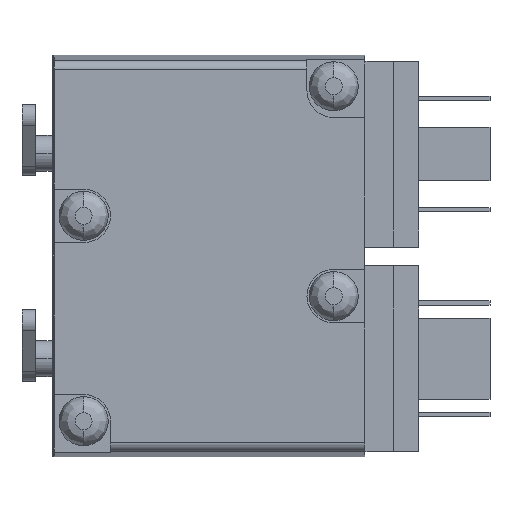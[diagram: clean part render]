
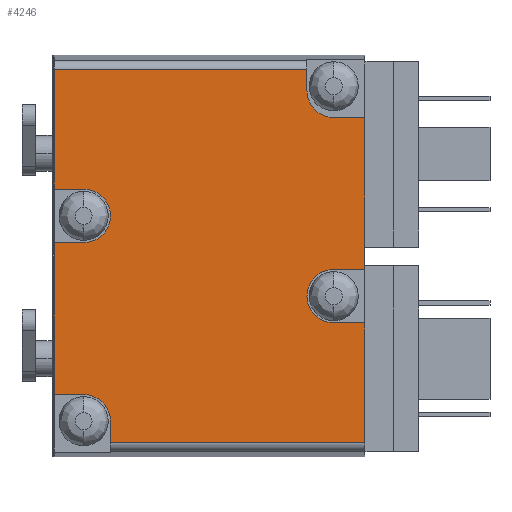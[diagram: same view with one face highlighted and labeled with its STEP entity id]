
A CAD part, left-side view. The second image highlights one B-rep face of the part: STEP entity #4246.
In plain terms, the highlighted planar face has unit normal (-1, 0, 0).
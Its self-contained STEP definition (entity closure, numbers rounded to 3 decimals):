
#16 = DIRECTION ( 'NONE',  ( 0., -1., 0. ) ) ;
#42 = DIRECTION ( 'NONE',  ( 1., 0., 0. ) ) ;
#91 = ORIENTED_EDGE ( 'NONE', *, *, #2800, .F. ) ;
#96 = DIRECTION ( 'NONE',  ( 1., 0., 0. ) ) ;
#137 = CARTESIAN_POINT ( 'NONE',  ( -76.95, 21., -39. ) ) ;
#194 = CARTESIAN_POINT ( 'NONE',  ( -76.95, 14.5, -42. ) ) ;
#261 = CARTESIAN_POINT ( 'NONE',  ( -76.95, 21., -36.642 ) ) ;
#375 = AXIS2_PLACEMENT_3D ( 'NONE', #3366, #5739, #4315 ) ;
#380 = VERTEX_POINT ( 'NONE', #4499 ) ;
#409 = ORIENTED_EDGE ( 'NONE', *, *, #4963, .T. ) ;
#428 = DIRECTION ( 'NONE',  ( 0., 0., 1. ) ) ;
#448 = CARTESIAN_POINT ( 'NONE',  ( -76.95, 49.3, -36.642 ) ) ;
#500 = ORIENTED_EDGE ( 'NONE', *, *, #3725, .T. ) ;
#604 = LINE ( 'NONE', #3001, #4488 ) ;
#744 = VERTEX_POINT ( 'NONE', #3977 ) ;
#765 = CIRCLE ( 'NONE', #375, 3. ) ;
#766 = CARTESIAN_POINT ( 'NONE',  ( -76.95, 14.5, -78.358 ) ) ;
#849 = EDGE_CURVE ( 'NONE', #380, #744, #2317, .T. ) ;
#877 = AXIS2_PLACEMENT_3D ( 'NONE', #3089, #1182, #4957 ) ;
#881 = CARTESIAN_POINT ( 'NONE',  ( -76.95, 49.5, -73. ) ) ;
#901 = DIRECTION ( 'NONE',  ( 0., 0., 1. ) ) ;
#911 = CARTESIAN_POINT ( 'NONE',  ( -76.95, 49.5, -50. ) ) ;
#962 = DIRECTION ( 'NONE',  ( 0., 0., -1. ) ) ;
#1042 = LINE ( 'NONE', #2907, #3973 ) ;
#1079 = CARTESIAN_POINT ( 'NONE',  ( -76.95, 49.3, -78.358 ) ) ;
#1093 = VECTOR ( 'NONE', #4622, 1000. ) ;
#1109 = ORIENTED_EDGE ( 'NONE', *, *, #3591, .T. ) ;
#1122 = DIRECTION ( 'NONE',  ( 0., 0., 1. ) ) ;
#1149 = ORIENTED_EDGE ( 'NONE', *, *, #2978, .T. ) ;
#1166 = CIRCLE ( 'NONE', #877, 3. ) ;
#1182 = DIRECTION ( 'NONE',  ( 1., 0., 0. ) ) ;
#1188 = AXIS2_PLACEMENT_3D ( 'NONE', #4594, #42, #962 ) ;
#1209 = ORIENTED_EDGE ( 'NONE', *, *, #2815, .T. ) ;
#1251 = VERTEX_POINT ( 'NONE', #261 ) ;
#1275 = EDGE_CURVE ( 'NONE', #4203, #3056, #1166, .T. ) ;
#1288 = CARTESIAN_POINT ( 'NONE',  ( -76.95, 18., -59. ) ) ;
#1345 = DIRECTION ( 'NONE',  ( 0., 0., -1. ) ) ;
#1359 = VECTOR ( 'NONE', #4350, 1000. ) ;
#1379 = VERTEX_POINT ( 'NONE', #448 ) ;
#1382 = AXIS2_PLACEMENT_3D ( 'NONE', #4366, #1476, #3315 ) ;
#1410 = EDGE_CURVE ( 'NONE', #744, #1882, #4676, .T. ) ;
#1446 = CARTESIAN_POINT ( 'NONE',  ( -76.95, 21., -39. ) ) ;
#1476 = DIRECTION ( 'NONE',  ( 1., 0., 0. ) ) ;
#1497 = CARTESIAN_POINT ( 'NONE',  ( -76.95, 49.3, -78.358 ) ) ;
#1509 = FACE_OUTER_BOUND ( 'NONE', #5937, .T. ) ;
#1543 = DIRECTION ( 'NONE',  ( 0., 1., 0. ) ) ;
#1547 = VECTOR ( 'NONE', #3297, 1000. ) ;
#1724 = DIRECTION ( 'NONE',  ( 0., -1., 0. ) ) ;
#1786 = VECTOR ( 'NONE', #1345, 1000. ) ;
#1872 = CIRCLE ( 'NONE', #1382, 3. ) ;
#1882 = VERTEX_POINT ( 'NONE', #4818 ) ;
#1889 = CARTESIAN_POINT ( 'NONE',  ( -76.95, 49.3, -78.358 ) ) ;
#2111 = VERTEX_POINT ( 'NONE', #3306 ) ;
#2209 = CARTESIAN_POINT ( 'NONE',  ( -76.95, 18., -59. ) ) ;
#2210 = VECTOR ( 'NONE', #1724, 1000. ) ;
#2257 = VERTEX_POINT ( 'NONE', #3861 ) ;
#2317 = LINE ( 'NONE', #6021, #1786 ) ;
#2318 = LINE ( 'NONE', #881, #3608 ) ;
#2342 = DIRECTION ( 'NONE',  ( 0., -1., 0. ) ) ;
#2434 = ORIENTED_EDGE ( 'NONE', *, *, #1275, .T. ) ;
#2450 = EDGE_CURVE ( 'NONE', #4139, #4615, #2318, .T. ) ;
#2489 = EDGE_CURVE ( 'NONE', #4139, #3619, #2749, .T. ) ;
#2610 = EDGE_CURVE ( 'NONE', #1882, #5936, #3883, .T. ) ;
#2636 = ORIENTED_EDGE ( 'NONE', *, *, #2610, .T. ) ;
#2724 = VERTEX_POINT ( 'NONE', #3045 ) ;
#2749 = LINE ( 'NONE', #1889, #1547 ) ;
#2800 = EDGE_CURVE ( 'NONE', #2724, #1379, #5682, .T. ) ;
#2815 = EDGE_CURVE ( 'NONE', #4615, #380, #765, .T. ) ;
#2816 = ORIENTED_EDGE ( 'NONE', *, *, #5407, .F. ) ;
#2829 = VERTEX_POINT ( 'NONE', #3915 ) ;
#2907 = CARTESIAN_POINT ( 'NONE',  ( -76.95, 49.3, -36.642 ) ) ;
#2945 = CIRCLE ( 'NONE', #1188, 3. ) ;
#2978 = EDGE_CURVE ( 'NONE', #5936, #2829, #604, .T. ) ;
#3001 = CARTESIAN_POINT ( 'NONE',  ( -76.95, 14.5, -65. ) ) ;
#3044 = VECTOR ( 'NONE', #16, 1000. ) ;
#3045 = CARTESIAN_POINT ( 'NONE',  ( -76.95, 49.3, -50. ) ) ;
#3056 = VERTEX_POINT ( 'NONE', #4443 ) ;
#3089 = CARTESIAN_POINT ( 'NONE',  ( -76.95, 46., -53. ) ) ;
#3148 = DIRECTION ( 'NONE',  ( 0., 1., 0. ) ) ;
#3297 = DIRECTION ( 'NONE',  ( 0., 0., 1. ) ) ;
#3306 = CARTESIAN_POINT ( 'NONE',  ( -76.95, 18., -42. ) ) ;
#3315 = DIRECTION ( 'NONE',  ( 0., 0., -1. ) ) ;
#3363 = DIRECTION ( 'NONE',  ( 0., 1., 0. ) ) ;
#3366 = CARTESIAN_POINT ( 'NONE',  ( -76.95, 46., -76. ) ) ;
#3376 = VERTEX_POINT ( 'NONE', #137 ) ;
#3390 = EDGE_CURVE ( 'NONE', #4883, #2111, #3943, .T. ) ;
#3515 = LINE ( 'NONE', #4466, #3938 ) ;
#3562 = LINE ( 'NONE', #766, #4754 ) ;
#3591 = EDGE_CURVE ( 'NONE', #3056, #3619, #3515, .T. ) ;
#3608 = VECTOR ( 'NONE', #2342, 1000. ) ;
#3619 = VERTEX_POINT ( 'NONE', #5896 ) ;
#3629 = EDGE_CURVE ( 'NONE', #2724, #4203, #4700, .T. ) ;
#3725 = EDGE_CURVE ( 'NONE', #2111, #3376, #2945, .T. ) ;
#3861 = CARTESIAN_POINT ( 'NONE',  ( -76.95, 14.5, -59. ) ) ;
#3883 = LINE ( 'NONE', #4375, #5353 ) ;
#3915 = CARTESIAN_POINT ( 'NONE',  ( -76.95, 18., -65. ) ) ;
#3920 = ORIENTED_EDGE ( 'NONE', *, *, #2489, .F. ) ;
#3938 = VECTOR ( 'NONE', #3148, 1000. ) ;
#3943 = LINE ( 'NONE', #194, #4425 ) ;
#3973 = VECTOR ( 'NONE', #5322, 1000. ) ;
#3977 = CARTESIAN_POINT ( 'NONE',  ( -76.95, 43., -78.358 ) ) ;
#4091 = CARTESIAN_POINT ( 'NONE',  ( -76.95, 46., -73. ) ) ;
#4104 = CARTESIAN_POINT ( 'NONE',  ( -76.95, 14.5, -42. ) ) ;
#4139 = VERTEX_POINT ( 'NONE', #5609 ) ;
#4160 = ORIENTED_EDGE ( 'NONE', *, *, #4324, .T. ) ;
#4178 = ORIENTED_EDGE ( 'NONE', *, *, #2450, .T. ) ;
#4203 = VERTEX_POINT ( 'NONE', #4695 ) ;
#4212 = ORIENTED_EDGE ( 'NONE', *, *, #3390, .T. ) ;
#4216 = CARTESIAN_POINT ( 'NONE',  ( -76.95, 49.3, -78.358 ) ) ;
#4246 = ADVANCED_FACE ( 'NONE', ( #1509 ), #4759, .F. ) ;
#4315 = DIRECTION ( 'NONE',  ( 0., 0., -1. ) ) ;
#4324 = EDGE_CURVE ( 'NONE', #2829, #5473, #1872, .T. ) ;
#4330 = VECTOR ( 'NONE', #901, 1000. ) ;
#4350 = DIRECTION ( 'NONE',  ( 0., 0., 1. ) ) ;
#4366 = CARTESIAN_POINT ( 'NONE',  ( -76.95, 18., -62. ) ) ;
#4375 = CARTESIAN_POINT ( 'NONE',  ( -76.95, 14.5, -78.358 ) ) ;
#4393 = ORIENTED_EDGE ( 'NONE', *, *, #5987, .T. ) ;
#4425 = VECTOR ( 'NONE', #3363, 1000. ) ;
#4443 = CARTESIAN_POINT ( 'NONE',  ( -76.95, 46., -56. ) ) ;
#4466 = CARTESIAN_POINT ( 'NONE',  ( -76.95, 46., -56. ) ) ;
#4488 = VECTOR ( 'NONE', #5354, 1000. ) ;
#4499 = CARTESIAN_POINT ( 'NONE',  ( -76.95, 43., -76. ) ) ;
#4594 = CARTESIAN_POINT ( 'NONE',  ( -76.95, 18., -39. ) ) ;
#4615 = VERTEX_POINT ( 'NONE', #4091 ) ;
#4618 = AXIS2_PLACEMENT_3D ( 'NONE', #1079, #96, #1543 ) ;
#4622 = DIRECTION ( 'NONE',  ( 0., -1., 0. ) ) ;
#4676 = LINE ( 'NONE', #4216, #3044 ) ;
#4694 = LINE ( 'NONE', #1446, #4330 ) ;
#4695 = CARTESIAN_POINT ( 'NONE',  ( -76.95, 46., -50. ) ) ;
#4700 = LINE ( 'NONE', #911, #1093 ) ;
#4754 = VECTOR ( 'NONE', #428, 1000. ) ;
#4759 = PLANE ( 'NONE',  #4618 ) ;
#4818 = CARTESIAN_POINT ( 'NONE',  ( -76.95, 14.5, -78.358 ) ) ;
#4883 = VERTEX_POINT ( 'NONE', #4104 ) ;
#4957 = DIRECTION ( 'NONE',  ( 0., 0., -1. ) ) ;
#4963 = EDGE_CURVE ( 'NONE', #5473, #2257, #6019, .T. ) ;
#5137 = EDGE_CURVE ( 'NONE', #2257, #4883, #3562, .T. ) ;
#5265 = ORIENTED_EDGE ( 'NONE', *, *, #849, .T. ) ;
#5269 = ORIENTED_EDGE ( 'NONE', *, *, #3629, .T. ) ;
#5322 = DIRECTION ( 'NONE',  ( 0., -1., 0. ) ) ;
#5353 = VECTOR ( 'NONE', #1122, 1000. ) ;
#5354 = DIRECTION ( 'NONE',  ( 0., 1., 0. ) ) ;
#5407 = EDGE_CURVE ( 'NONE', #1379, #1251, #1042, .T. ) ;
#5473 = VERTEX_POINT ( 'NONE', #1288 ) ;
#5501 = ORIENTED_EDGE ( 'NONE', *, *, #1410, .T. ) ;
#5550 = CARTESIAN_POINT ( 'NONE',  ( -76.95, 14.5, -65. ) ) ;
#5609 = CARTESIAN_POINT ( 'NONE',  ( -76.95, 49.3, -73. ) ) ;
#5655 = ORIENTED_EDGE ( 'NONE', *, *, #5137, .T. ) ;
#5682 = LINE ( 'NONE', #1497, #1359 ) ;
#5739 = DIRECTION ( 'NONE',  ( 1., 0., 0. ) ) ;
#5896 = CARTESIAN_POINT ( 'NONE',  ( -76.95, 49.3, -56. ) ) ;
#5936 = VERTEX_POINT ( 'NONE', #5550 ) ;
#5937 = EDGE_LOOP ( 'NONE', ( #5269, #2434, #1109, #3920, #4178, #1209, #5265, #5501, #2636, #1149, #4160, #409, #5655, #4212, #500, #4393, #2816, #91 ) ) ;
#5987 = EDGE_CURVE ( 'NONE', #3376, #1251, #4694, .T. ) ;
#6019 = LINE ( 'NONE', #2209, #2210 ) ;
#6021 = CARTESIAN_POINT ( 'NONE',  ( -76.95, 43., -76. ) ) ;
